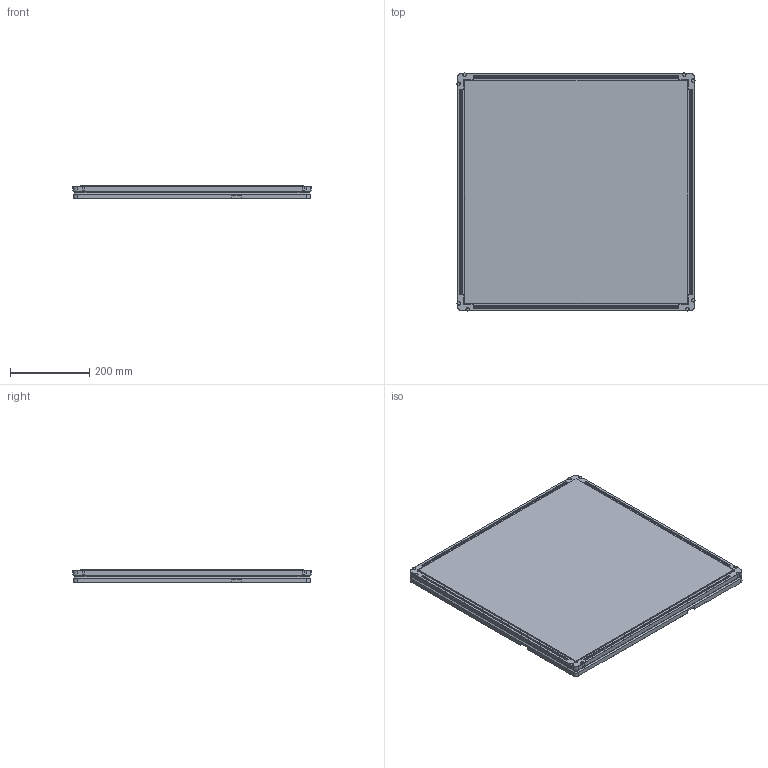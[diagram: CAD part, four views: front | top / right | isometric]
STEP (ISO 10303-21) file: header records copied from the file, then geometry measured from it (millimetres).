
FILE_DESCRIPTION(/* description */ (''),/* implementation_level */ '2;1');
FILE_NAME(/* name */ 'C:\Marketing\01_Versamove-SPU_STEP-Dateien-Homepage\Versamove plus\Werkstückträger_WT210_600x600.stp',/* time_stamp */ '2016-12-22T15:59:31+01:00',/* author */ ('herbert.engels'),/* organization */ (''),/* preprocessor_version */ 'ST-DEVELOPER v15.6',/* originating_system */ 'Autodesk Inventor 2015',/* authorisation */ '');
FILE_SCHEMA (('CONFIG_CONTROL_DESIGN'));
Length unit declared in the file: millimetre
Products named in the file (1): Werkstückträger_WT210_600x600
Bounding box: 602.5 x 602.5 x 35 mm (x, y, z)
Volume: 4898801.7 mm3; surface area: 952940.7 mm2
Topology: 1 solids, 1 shells, 307 faces, 796 edges, 504 vertices
Faces by surface type: plane 231, cylinder 44, cone 28, torus 4
Full cylindrical faces by diameter (mm): 5 x4, 8 x8, 13 x4
Entity records: 9446 total; most frequent: CARTESIAN_POINT 1652, ORIENTED_EDGE 1528, DIRECTION 1468, EDGE_CURVE 764, LINE 612, VECTOR 612, VERTEX_POINT 492, AXIS2_PLACEMENT_3D 428
